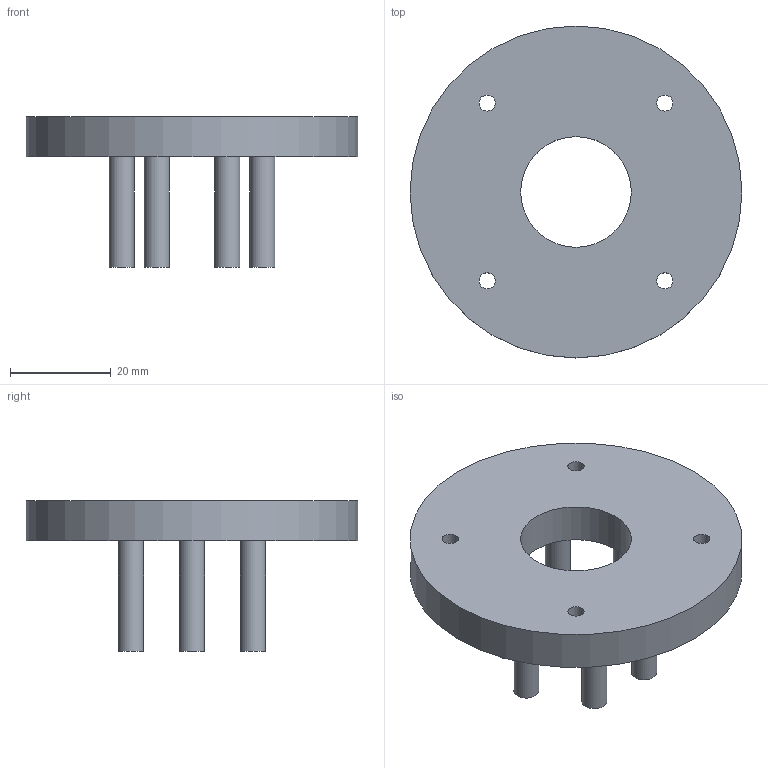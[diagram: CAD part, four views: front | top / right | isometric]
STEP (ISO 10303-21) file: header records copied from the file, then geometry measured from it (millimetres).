
FILE_DESCRIPTION(('FreeCAD Model'),'2;1');
FILE_NAME('Open CASCADE Shape Model','2026-11-09T00:40:30',('FreeCAD'),( 'FreeCAD'),'Open CASCADE STEP processor 7.8','FreeCAD','Unknown');
FILE_SCHEMA(('AUTOMOTIVE_DESIGN { 1 0 10303 214 1 1 1 1 }'));
Length unit declared in the file: millimetre
Products named in the file (1): Open CASCADE STEP translator 7.8 5
Bounding box: 66 x 66 x 30 mm (x, y, z)
Volume: 26662.9 mm3; surface area: 10624.6 mm2
Topology: 1 solids, 1 shells, 20 faces, 36 edges, 24 vertices
Faces by surface type: cylinder 12, plane 8
Full cylindrical faces by diameter (mm): 3.2 x4, 5 x6, 22 x1, 66 x1
Entity records: 534 total; most frequent: DIRECTION 102, CARTESIAN_POINT 81, ORIENTED_EDGE 72, AXIS2_PLACEMENT_3D 45, FACE_BOUND 36, EDGE_LOOP 36, EDGE_CURVE 36, VERTEX_POINT 24
